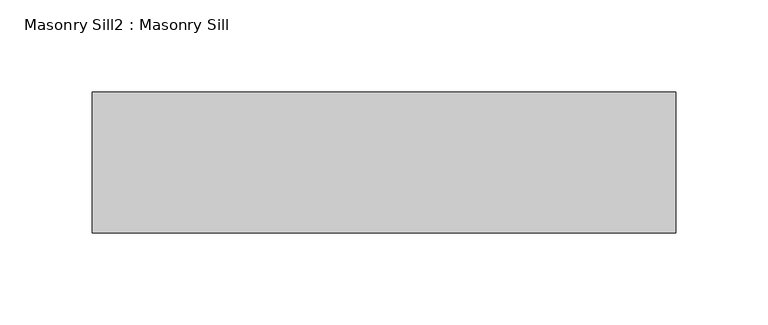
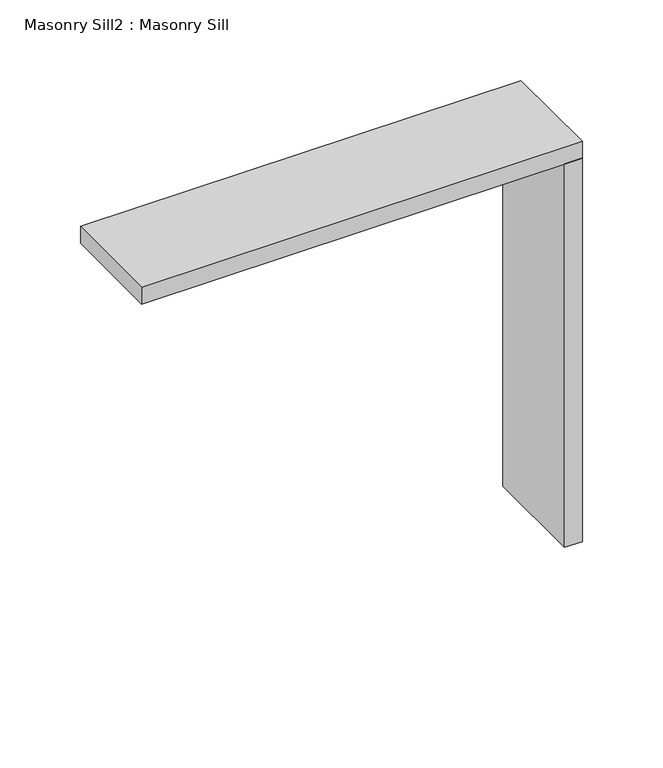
"""IFC4 building model written with IfcOpenShell, lengths in millimetres: proxy geometry, Masonry Sill2 : Masonry Sill."""

from ifc_helpers import new_model, si_unit, frame, origin, origin_with_axes, place, context, project, spatial, polyline, outline, extrude, source, transform, mapped, element, save


def masonry_sill2_masonry_sill_6ded4e80(model_context):
    return source(origin(), model_context, "Body", "SweptSolid", [
        extrude(outline(polyline([(26855.8851773, 653.0316297), (26843.1851773, 653.0316297), (26843.1851773, 729.2316297), (26855.8851773, 729.2316297), (26855.8851773, 653.0316297)])), origin_with_axes(), (0.0, 0.0, 1.0), 290.5125),
        extrude(outline(polyline([(26539.9726773, 653.0316297), (26539.9726773, 729.2316297), (26855.8851773, 729.2316297), (26855.8851773, 653.0316297), (26539.9726773, 653.0316297)])), frame((0.0, 0.0, 290.5125), z_axis=(0.0, 0.0, 1.0), x_axis=(1.0, 0.0, 0.0)), (0.0, 0.0, 1.0), 12.7),
    ])


if __name__ == "__main__":
    model = new_model("IFC4")
    model_context = context("Model", 3, world=origin())
    ifc_project = project(units=[si_unit("LENGTHUNIT", "METRE", prefix="MILLI")], contexts=[model_context])
    site = spatial("IfcSite", under=ifc_project)
    building = spatial("IfcBuilding", under=site)
    placement = place(None, origin())
    masonry_sill2_masonry_sill_shape = masonry_sill2_masonry_sill_6ded4e80(model_context)
    element("IfcBuildingElementProxy", 1, Name="Masonry Sill2 : Masonry Sill", ObjectType="Masonry Sill2 : Masonry Sill", at=placement, inside=building, context=model_context, shape_type="MappedRepresentation", body=[
        mapped(masonry_sill2_masonry_sill_shape, transform((0.0, 0.0, 0.0), x_axis=(1.0, 0.0, 0.0), y_axis=(0.0, 1.0, 0.0), z_axis=(0.0, 0.0, 1.0))),
    ])
    save(model, "model.ifc")
